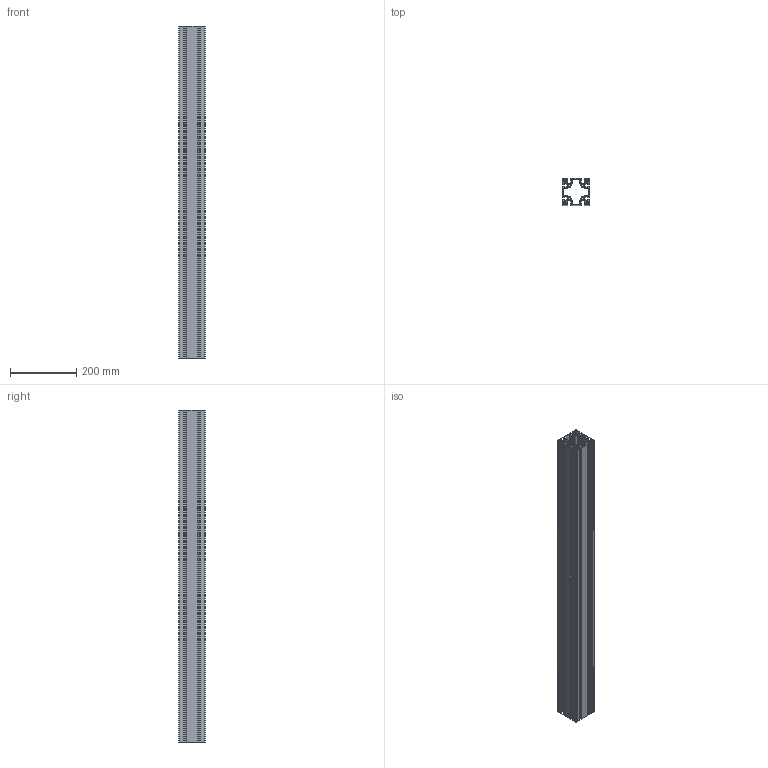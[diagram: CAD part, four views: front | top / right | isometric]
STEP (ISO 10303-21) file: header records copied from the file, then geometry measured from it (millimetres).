
FILE_DESCRIPTION((''),'2;1');
FILE_NAME('\\Dtp_2\share\iriguchi2\M8フレーム\AFS-8080L-8.stp','2014-12-01T13:10:18',('AMS8'),(''),'Autodesk Inventor 2008','Autodesk Inventor 2008','');
FILE_SCHEMA(('AUTOMOTIVE_DESIGN { 1 0 10303 214 1 1 1 1 }'));
Length unit declared in the file: millimetre
Products named in the file (1): Part54
Bounding box: 80 x 80 x 1000 mm (x, y, z)
Volume: 1335793.1 mm3; surface area: 1138582.9 mm2
Topology: 1 solids, 1 shells, 414 faces, 1236 edges, 824 vertices
Faces by surface type: cylinder 236, plane 178
Full cylindrical faces by diameter (mm): 6.8 x4
Entity records: 14134 total; most frequent: DIRECTION 2534, CARTESIAN_POINT 2471, ORIENTED_EDGE 2464, EDGE_CURVE 1232, AXIS2_PLACEMENT_3D 887, VERTEX_POINT 824, VECTOR 760, LINE 760
